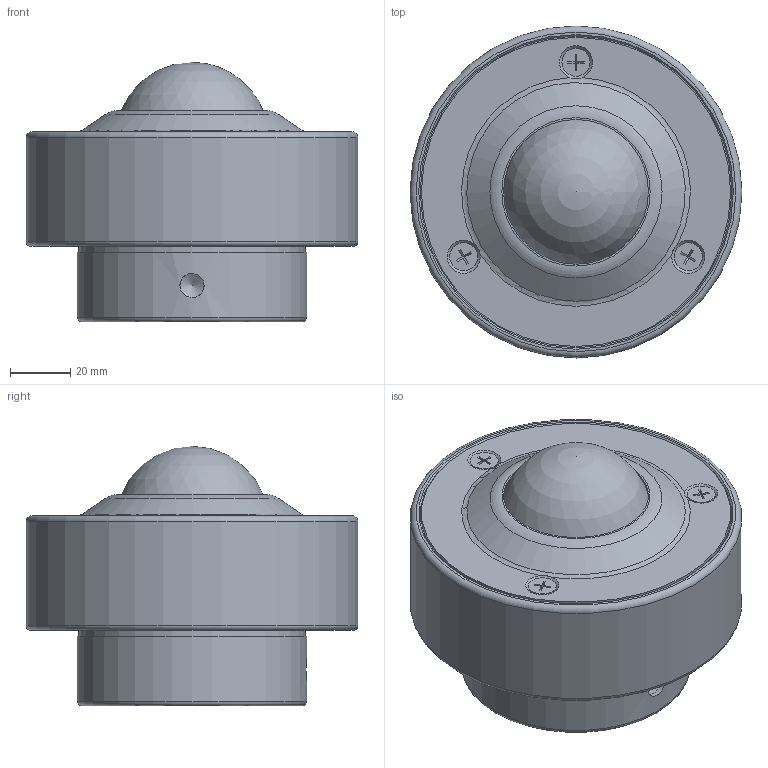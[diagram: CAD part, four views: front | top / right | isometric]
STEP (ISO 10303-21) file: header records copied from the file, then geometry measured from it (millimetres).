
FILE_DESCRIPTION(/* description */ (''),/* implementation_level */ '2;1');
FILE_NAME(/* name */ 'Z:\80-CAD共有ファイル\製品3D\X2\30C730FC30BF\X0\\21-S\S-51.stp',/* time_stamp */ '2015-01-06T16:06:42+09:00',/* author */ ('yamaki'),/* organization */ (''),/* preprocessor_version */ 'ST-DEVELOPER v15.6',/* originating_system */ 'Autodesk Inventor 2015',/* authorisation */ '');
FILE_SCHEMA (('AUTOMOTIVE_DESIGN { 1 0 10303 214 3 1 1 }'));
Length unit declared in the file: millimetre
Products named in the file (3): 2151AT-01; 5080; 2151AT
Bounding box: 110 x 110 x 86 mm (x, y, z)
Volume: 511705.9 mm3; surface area: 51427.2 mm2
Topology: 2 solids, 2 shells, 110 faces, 208 edges, 108 vertices
Faces by surface type: plane 83, cone 10, cylinder 10, torus 5, sphere 2
Full cylindrical faces by diameter (mm): 8 x1, 9.3 x3, 48 x1, 75 x1, 76 x1, 102.5 x1, 103.3 x1, 110 x1
Entity records: 2632 total; most frequent: CARTESIAN_POINT 466, DIRECTION 436, ORIENTED_EDGE 348, EDGE_CURVE 174, AXIS2_PLACEMENT_3D 152, EDGE_LOOP 141, LINE 132, VECTOR 132
